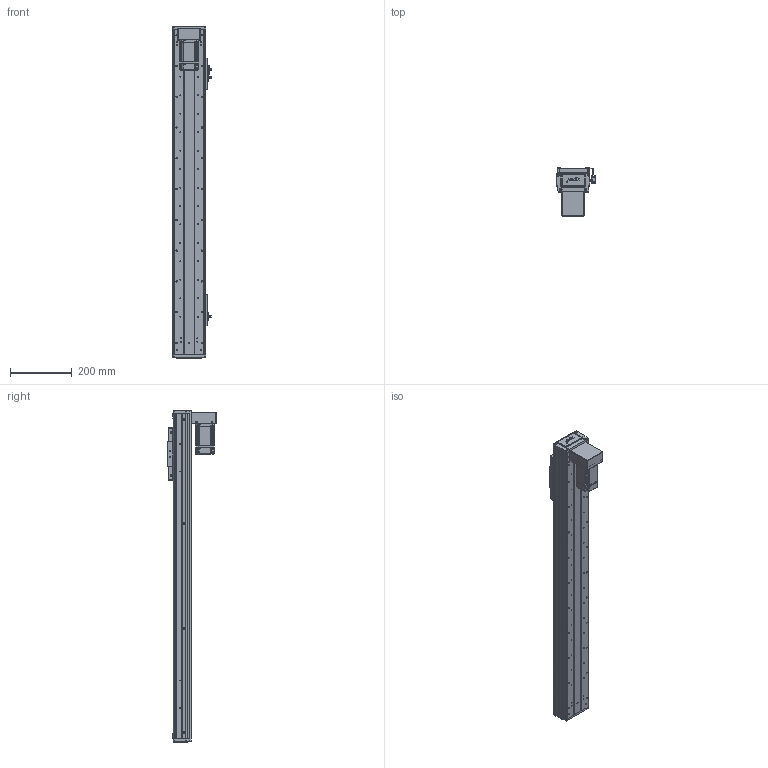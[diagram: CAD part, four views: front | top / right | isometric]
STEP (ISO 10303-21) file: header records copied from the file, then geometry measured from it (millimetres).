
FILE_DESCRIPTION (( 'STEP AP203' ), '1' );
FILE_NAME ('RY100FS-L1620-300-BK(15双轨).SLDASM_800.step', '2021-03-02T07:33:58', ( '盈信电脑' ), ( '东莞市道滘镇水果街19号' ), 'SwSTEP 2.0', 'SolidWorks 2012', '' );
FILE_SCHEMA (( 'CONFIG_CONTROL_DESIGN' ));
Length unit declared in the file: millimetre
Products named in the file (21): 1; RY100FS-L1620-300-BK(15邧寢).SLDASM_800; 蚥薯蝶紫輸; 滅袉蝶18-15; RY100FS-15双轨下折钢带安装板; RY100FS-双轨螺母座(16丝杆）; RY100F-詩湍揤踡輸; RY100FS-15邧寢狟殏萇儂欶; RY100FS-15邧寢狟殏萇儂啣; RY80俋离覜茼え; 覜茼ん672; 672嫖萇羲壽假蚾釱; RY100F-綴裔啣; 棠沺沭; RY100F-詩湍揤踡謫; RY100F-詩湍幗謫粣; RY100F-滅鳥裔啣; RY100FS-300-BK15絳寢倰第奻裔啣_800; RY100FS-双轨铝滑块(上板）; RY100FS-300-BK15邧寢祥凄詩湍_800; RY100FS-300-BK15絳寢倰第菁釱_800
Assembly tree (30 placements, depth 2):
  RY100FS-L1620-300-BK(15邧寢).SLDASM_800
    RY100FS-300-BK15絳寢倰第菁釱_800
    RY100FS-300-BK15絳寢倰第奻裔啣_800  x2
    RY100FS-300-BK15邧寢祥凄詩湍_800
    RY100FS-双轨铝滑块(上板）
    RY100F-滅鳥裔啣
    棠沺沭  x2
    RY100F-詩湍幗謫粣
    RY100F-詩湍揤踡謫  x2
    RY100F-綴裔啣  x2
    672嫖萇羲壽假蚾釱  x2
    RY80俋离覜茼え  x2
    覜茼ん672  x3
    RY100F-詩湍揤踡輸  x2
    RY100FS-双轨螺母座(16丝杆）
    RY100FS-15邧寢狟殏萇儂啣
    RY100FS-15邧寢狟殏萇儂欶
    蚥薯蝶紫輸
    RY100FS-15双轨下折钢带安装板
    滅袉蝶18-15  x2
    1
Bounding box: 126.2 x 158.5 x 1079 mm (x, y, z)
Volume: 2551197.5 mm3; surface area: 1075517.2 mm2
Topology: 30 solids, 30 shells, 2303 faces, 6306 edges, 4106 vertices
Faces by surface type: plane 1101, cylinder 1034, cone 132, bspline 36
Entity records: 63308 total; most frequent: CARTESIAN_POINT 13636, ORIENTED_EDGE 9852, DIRECTION 9805, EDGE_CURVE 4926, AXIS2_PLACEMENT_3D 3443, VERTEX_POINT 3244, LINE 2919, VECTOR 2919
